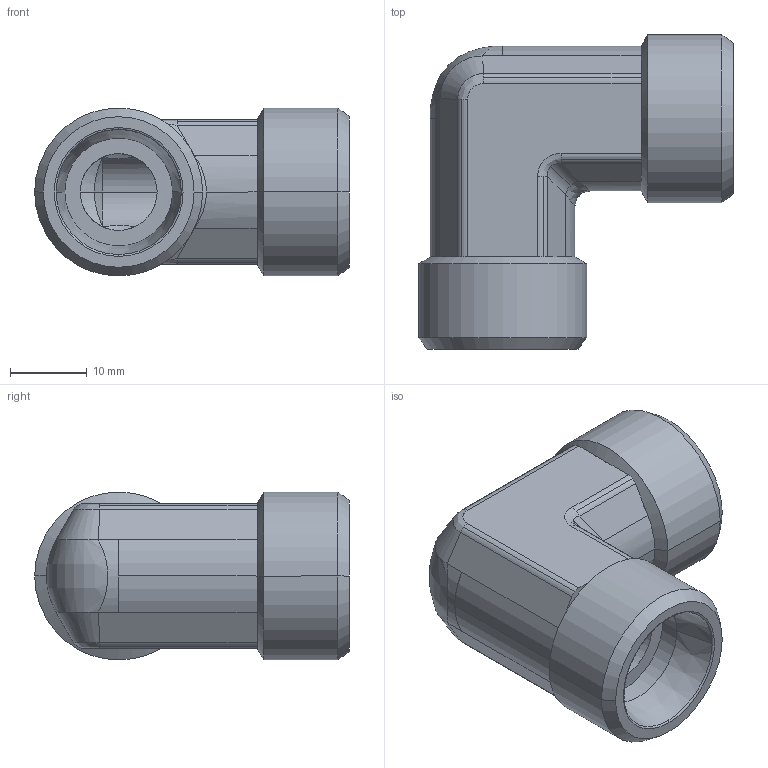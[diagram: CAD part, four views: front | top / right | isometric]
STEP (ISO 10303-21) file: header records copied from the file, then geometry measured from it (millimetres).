
FILE_DESCRIPTION((''),'2;1');
FILE_NAME('103818.stp','2007-10-31T11:52:08',(''),(''),'AutoCAD STEP 2000i','AutoCAD 2000i',', , ');
FILE_SCHEMA(('CONFIG_CONTROL_DESIGN'));
Length unit declared in the file: millimetre
Products named in the file (2): 103818.0; 3090#0
Assembly tree (1 placements, depth 2):
  103818.0
    3090#0
Bounding box: 40.92 x 40.92 x 21.85 mm (x, y, z)
Volume: 13111 mm3; surface area: 6469.1 mm2
Topology: 1 solids, 1 shells, 104 faces, 234 edges, 134 vertices
Faces by surface type: cylinder 44, plane 26, cone 20, bspline 14
Entity records: 3747 total; most frequent: CARTESIAN_POINT 1314, DIRECTION 526, ORIENTED_EDGE 468, EDGE_CURVE 234, AXIS2_PLACEMENT_3D 218, VERTEX_POINT 134, CIRCLE 108, EDGE_LOOP 108
